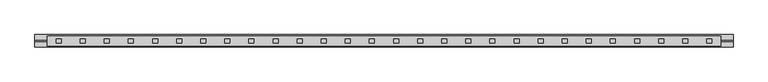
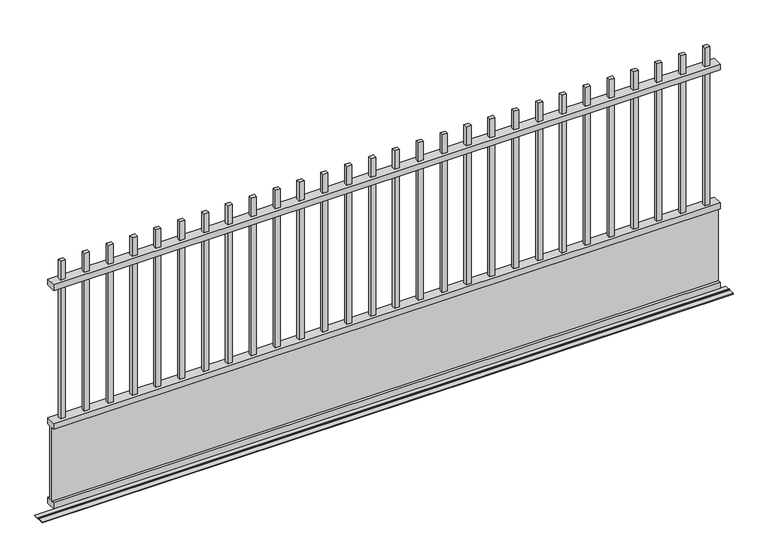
"""IFC4 building model written with IfcOpenShell, lengths in millimetres: geographic element geometry, Portail coulissant - 01 : Portail coulissant - 01."""

from ifc_helpers import new_model, si_unit, frame, origin, place, context, project, spatial, polyline, outline, extrude, faceted_brep, source, transform, mapped, element, save


def geographic_element_1e7744e3(model_context):
    return source(origin(), model_context, "Body", "SolidModel", [
        faceted_brep([(-1429.1068511, -7.5, 975.0), (-1429.1068511, -7.5, 405.0), (-1429.1068511, 7.5, 405.0), (-1429.1068511, 7.5, 975.0), (-1429.1068511, 7.5, 1080.0), (-1429.1068511, -7.5, 1080.0), (-1429.1068511, -7.5, 1000.0), (-1429.1068511, 7.5, 1000.0), (-1449.1068511, -7.5, 975.0), (-1449.1068511, -7.5, 405.0), (-1449.1068511, -7.5, 1080.0), (-1449.1068511, -7.5, 1000.0), (1215.8931489, -20.0, 405.0), (1215.8931489, 20.0, 405.0), (-1484.1068511, 20.0, 405.0), (-1484.1068511, -20.0, 405.0), (-1449.1068511, 7.5, 405.0), (-1235.7735177, 7.5, 405.0), (-1235.7735177, -7.5, 405.0), (-1255.7735177, -7.5, 405.0), (-1255.7735177, 7.5, 405.0), (-1042.4401844, 7.5, 405.0), (-1042.4401844, -7.5, 405.0), (-1062.4401844, -7.5, 405.0), (-1062.4401844, 7.5, 405.0), (-849.1068511, 7.5, 405.0), (-849.1068511, -7.5, 405.0), (-869.1068511, -7.5, 405.0), (-869.1068511, 7.5, 405.0), (-655.7735177, 7.5, 405.0), (-655.7735177, -7.5, 405.0), (-675.7735177, -7.5, 405.0), (-675.7735177, 7.5, 405.0), (-462.4401844, 7.5, 405.0), (-462.4401844, -7.5, 405.0), (-482.4401844, -7.5, 405.0), (-482.4401844, 7.5, 405.0), (-269.1068511, 7.5, 405.0), (-269.1068511, -7.5, 405.0), (-289.1068511, -7.5, 405.0), (-289.1068511, 7.5, 405.0), (-75.7735177, 7.5, 405.0), (-75.7735177, -7.5, 405.0), (-95.7735177, -7.5, 405.0), (-95.7735177, 7.5, 405.0), (117.5598156, 7.5, 405.0), (117.5598156, -7.5, 405.0), (97.5598156, -7.5, 405.0), (97.5598156, 7.5, 405.0), (310.8931489, 7.5, 405.0), (310.8931489, -7.5, 405.0), (290.8931489, -7.5, 405.0), (290.8931489, 7.5, 405.0), (407.5598156, 7.5, 405.0), (407.5598156, -7.5, 405.0), (387.5598156, -7.5, 405.0), (387.5598156, 7.5, 405.0), (504.2264823, 7.5, 405.0), (504.2264823, -7.5, 405.0), (484.2264823, -7.5, 405.0), (484.2264823, 7.5, 405.0), (600.8931489, 7.5, 405.0), (600.8931489, -7.5, 405.0), (580.8931489, -7.5, 405.0), (580.8931489, 7.5, 405.0), (697.5598156, 7.5, 405.0), (697.5598156, -7.5, 405.0), (677.5598156, -7.5, 405.0), (677.5598156, 7.5, 405.0), (794.2264823, 7.5, 405.0), (794.2264823, -7.5, 405.0), (774.2264823, -7.5, 405.0), (774.2264823, 7.5, 405.0), (890.8931489, 7.5, 405.0), (890.8931489, -7.5, 405.0), (870.8931489, -7.5, 405.0), (870.8931489, 7.5, 405.0), (987.5598156, 7.5, 405.0), (987.5598156, -7.5, 405.0), (967.5598156, -7.5, 405.0), (967.5598156, 7.5, 405.0), (1084.2264823, 7.5, 405.0), (1084.2264823, -7.5, 405.0), (1064.2264823, -7.5, 405.0), (1064.2264823, 7.5, 405.0), (1180.8931489, 7.5, 405.0), (1180.8931489, -7.5, 405.0), (1160.8931489, -7.5, 405.0), (1160.8931489, 7.5, 405.0), (-1332.4401844, 7.5, 405.0), (-1332.4401844, -7.5, 405.0), (-1352.4401844, -7.5, 405.0), (-1352.4401844, 7.5, 405.0), (-1139.1068511, 7.5, 405.0), (-1139.1068511, -7.5, 405.0), (-1159.1068511, -7.5, 405.0), (-1159.1068511, 7.5, 405.0), (-945.7735177, 7.5, 405.0), (-945.7735177, -7.5, 405.0), (-965.7735177, -7.5, 405.0), (-965.7735177, 7.5, 405.0), (-752.4401844, 7.5, 405.0), (-752.4401844, -7.5, 405.0), (-772.4401844, -7.5, 405.0), (-772.4401844, 7.5, 405.0), (-365.7735177, 7.5, 405.0), (-365.7735177, -7.5, 405.0), (-385.7735177, -7.5, 405.0), (-385.7735177, 7.5, 405.0), (-172.4401844, 7.5, 405.0), (-172.4401844, -7.5, 405.0), (-192.4401844, -7.5, 405.0), (-192.4401844, 7.5, 405.0), (214.2264823, 7.5, 405.0), (214.2264823, -7.5, 405.0), (194.2264823, -7.5, 405.0), (194.2264823, 7.5, 405.0), (20.8931489, 7.5, 405.0), (20.8931489, -7.5, 405.0), (0.8931489, -7.5, 405.0), (0.8931489, 7.5, 405.0), (-559.1068511, 7.5, 405.0), (-559.1068511, -7.5, 405.0), (-579.1068511, -7.5, 405.0), (-579.1068511, 7.5, 405.0), (-1449.1068511, 7.5, 975.0), (-1449.1068511, 7.5, 1080.0), (-1449.1068511, 7.5, 1000.0), (1215.8931489, 20.0, 975.0), (1215.8931489, -20.0, 975.0), (-1484.1068511, -20.0, 975.0), (-1484.1068511, 20.0, 975.0), (-1235.7735177, -7.5, 975.0), (-1235.7735177, 7.5, 975.0), (-1255.7735177, 7.5, 975.0), (-1255.7735177, -7.5, 975.0), (-1042.4401844, -7.5, 975.0), (-1042.4401844, 7.5, 975.0), (-1062.4401844, 7.5, 975.0), (-1062.4401844, -7.5, 975.0), (-849.1068511, -7.5, 975.0), (-849.1068511, 7.5, 975.0), (-869.1068511, 7.5, 975.0), (-869.1068511, -7.5, 975.0), (-655.7735177, -7.5, 975.0), (-655.7735177, 7.5, 975.0), (-675.7735177, 7.5, 975.0), (-675.7735177, -7.5, 975.0), (-462.4401844, -7.5, 975.0), (-462.4401844, 7.5, 975.0), (-482.4401844, 7.5, 975.0), (-482.4401844, -7.5, 975.0), (-269.1068511, -7.5, 975.0), (-269.1068511, 7.5, 975.0), (-289.1068511, 7.5, 975.0), (-289.1068511, -7.5, 975.0), (-75.7735177, -7.5, 975.0), (-75.7735177, 7.5, 975.0), (-95.7735177, 7.5, 975.0), (-95.7735177, -7.5, 975.0), (117.5598156, -7.5, 975.0), (117.5598156, 7.5, 975.0), (97.5598156, 7.5, 975.0), (97.5598156, -7.5, 975.0), (310.8931489, -7.5, 975.0), (310.8931489, 7.5, 975.0), (290.8931489, 7.5, 975.0), (290.8931489, -7.5, 975.0), (407.5598156, -7.5, 975.0), (407.5598156, 7.5, 975.0), (387.5598156, 7.5, 975.0), (387.5598156, -7.5, 975.0), (504.2264823, -7.5, 975.0), (504.2264823, 7.5, 975.0), (484.2264823, 7.5, 975.0), (484.2264823, -7.5, 975.0), (600.8931489, -7.5, 975.0), (600.8931489, 7.5, 975.0), (580.8931489, 7.5, 975.0), (580.8931489, -7.5, 975.0), (697.5598156, -7.5, 975.0), (697.5598156, 7.5, 975.0), (677.5598156, 7.5, 975.0), (677.5598156, -7.5, 975.0), (794.2264823, -7.5, 975.0), (794.2264823, 7.5, 975.0), (774.2264823, 7.5, 975.0), (774.2264823, -7.5, 975.0), (890.8931489, -7.5, 975.0), (890.8931489, 7.5, 975.0), (870.8931489, 7.5, 975.0), (870.8931489, -7.5, 975.0), (987.5598156, -7.5, 975.0), (987.5598156, 7.5, 975.0), (967.5598156, 7.5, 975.0), (967.5598156, -7.5, 975.0), (1084.2264823, -7.5, 975.0), (1084.2264823, 7.5, 975.0), (1064.2264823, 7.5, 975.0), (1064.2264823, -7.5, 975.0), (1180.8931489, -7.5, 975.0), (1180.8931489, 7.5, 975.0), (1160.8931489, 7.5, 975.0), (1160.8931489, -7.5, 975.0), (-1332.4401844, -7.5, 975.0), (-1332.4401844, 7.5, 975.0), (-1352.4401844, 7.5, 975.0), (-1352.4401844, -7.5, 975.0), (-1139.1068511, -7.5, 975.0), (-1139.1068511, 7.5, 975.0), (-1159.1068511, 7.5, 975.0), (-1159.1068511, -7.5, 975.0), (-945.7735177, -7.5, 975.0), (-945.7735177, 7.5, 975.0), (-965.7735177, 7.5, 975.0), (-965.7735177, -7.5, 975.0), (-752.4401844, -7.5, 975.0), (-752.4401844, 7.5, 975.0), (-772.4401844, 7.5, 975.0), (-772.4401844, -7.5, 975.0), (-365.7735177, -7.5, 975.0), (-365.7735177, 7.5, 975.0), (-385.7735177, 7.5, 975.0), (-385.7735177, -7.5, 975.0), (-172.4401844, -7.5, 975.0), (-172.4401844, 7.5, 975.0), (-192.4401844, 7.5, 975.0), (-192.4401844, -7.5, 975.0), (214.2264823, -7.5, 975.0), (214.2264823, 7.5, 975.0), (194.2264823, 7.5, 975.0), (194.2264823, -7.5, 975.0), (20.8931489, -7.5, 975.0), (20.8931489, 7.5, 975.0), (0.8931489, 7.5, 975.0), (0.8931489, -7.5, 975.0), (-559.1068511, -7.5, 975.0), (-559.1068511, 7.5, 975.0), (-579.1068511, 7.5, 975.0), (-579.1068511, -7.5, 975.0), (-1235.7735177, 7.5, 1080.0), (-1235.7735177, -7.5, 1080.0), (-1235.7735177, -7.5, 1000.0), (-1235.7735177, 7.5, 1000.0), (-1255.7735177, -7.5, 1080.0), (-1255.7735177, -7.5, 1000.0), (-1255.7735177, 7.5, 1080.0), (-1255.7735177, 7.5, 1000.0), (-1042.4401844, 7.5, 1080.0), (-1042.4401844, -7.5, 1080.0), (-1042.4401844, -7.5, 1000.0), (-1042.4401844, 7.5, 1000.0), (-1062.4401844, -7.5, 1080.0), (-1062.4401844, -7.5, 1000.0), (-1062.4401844, 7.5, 1080.0), (-1062.4401844, 7.5, 1000.0), (-849.1068511, 7.5, 1080.0), (-849.1068511, -7.5, 1080.0), (-849.1068511, -7.5, 1000.0), (-849.1068511, 7.5, 1000.0), (-869.1068511, -7.5, 1080.0), (-869.1068511, -7.5, 1000.0), (-869.1068511, 7.5, 1080.0), (-869.1068511, 7.5, 1000.0), (-655.7735177, 7.5, 1080.0), (-655.7735177, -7.5, 1080.0), (-655.7735177, -7.5, 1000.0), (-655.7735177, 7.5, 1000.0), (-675.7735177, -7.5, 1080.0), (-675.7735177, -7.5, 1000.0), (-675.7735177, 7.5, 1080.0), (-675.7735177, 7.5, 1000.0), (-462.4401844, 7.5, 1080.0), (-462.4401844, -7.5, 1080.0), (-462.4401844, -7.5, 1000.0), (-462.4401844, 7.5, 1000.0), (-482.4401844, -7.5, 1080.0), (-482.4401844, -7.5, 1000.0), (-482.4401844, 7.5, 1080.0), (-482.4401844, 7.5, 1000.0), (-269.1068511, 7.5, 1080.0), (-269.1068511, -7.5, 1080.0), (-269.1068511, -7.5, 1000.0), (-269.1068511, 7.5, 1000.0), (-289.1068511, -7.5, 1080.0), (-289.1068511, -7.5, 1000.0), (-289.1068511, 7.5, 1080.0), (-289.1068511, 7.5, 1000.0), (-75.7735177, 7.5, 1080.0), (-75.7735177, -7.5, 1080.0), (-75.7735177, -7.5, 1000.0), (-75.7735177, 7.5, 1000.0), (-95.7735177, -7.5, 1080.0), (-95.7735177, -7.5, 1000.0), (-95.7735177, 7.5, 1080.0), (-95.7735177, 7.5, 1000.0), (117.5598156, 7.5, 1080.0), (117.5598156, -7.5, 1080.0), (117.5598156, -7.5, 1000.0), (117.5598156, 7.5, 1000.0), (97.5598156, -7.5, 1080.0), (97.5598156, -7.5, 1000.0), (97.5598156, 7.5, 1080.0), (97.5598156, 7.5, 1000.0), (310.8931489, 7.5, 1080.0), (310.8931489, -7.5, 1080.0), (310.8931489, -7.5, 1000.0), (310.8931489, 7.5, 1000.0), (290.8931489, -7.5, 1080.0), (290.8931489, -7.5, 1000.0), (290.8931489, 7.5, 1080.0), (290.8931489, 7.5, 1000.0), (407.5598156, 7.5, 1080.0), (407.5598156, -7.5, 1080.0), (407.5598156, -7.5, 1000.0), (407.5598156, 7.5, 1000.0), (387.5598156, -7.5, 1080.0), (387.5598156, -7.5, 1000.0), (387.5598156, 7.5, 1080.0), (387.5598156, 7.5, 1000.0), (504.2264823, 7.5, 1080.0), (504.2264823, -7.5, 1080.0), (504.2264823, -7.5, 1000.0), (504.2264823, 7.5, 1000.0), (484.2264823, -7.5, 1080.0), (484.2264823, -7.5, 1000.0), (484.2264823, 7.5, 1080.0), (484.2264823, 7.5, 1000.0), (600.8931489, 7.5, 1080.0), (600.8931489, -7.5, 1080.0), (600.8931489, -7.5, 1000.0), (600.8931489, 7.5, 1000.0), (580.8931489, -7.5, 1080.0), (580.8931489, -7.5, 1000.0), (580.8931489, 7.5, 1080.0), (580.8931489, 7.5, 1000.0), (697.5598156, 7.5, 1080.0), (697.5598156, -7.5, 1080.0), (697.5598156, -7.5, 1000.0), (697.5598156, 7.5, 1000.0), (677.5598156, -7.5, 1080.0), (677.5598156, -7.5, 1000.0), (677.5598156, 7.5, 1080.0), (677.5598156, 7.5, 1000.0), (794.2264823, 7.5, 1080.0), (794.2264823, -7.5, 1080.0), (794.2264823, -7.5, 1000.0), (794.2264823, 7.5, 1000.0), (774.2264823, -7.5, 1080.0), (774.2264823, -7.5, 1000.0), (774.2264823, 7.5, 1080.0), (774.2264823, 7.5, 1000.0), (890.8931489, 7.5, 1080.0), (890.8931489, -7.5, 1080.0), (890.8931489, -7.5, 1000.0), (890.8931489, 7.5, 1000.0), (870.8931489, -7.5, 1080.0), (870.8931489, -7.5, 1000.0), (870.8931489, 7.5, 1080.0), (870.8931489, 7.5, 1000.0), (987.5598156, 7.5, 1080.0), (987.5598156, -7.5, 1080.0), (987.5598156, -7.5, 1000.0), (987.5598156, 7.5, 1000.0), (967.5598156, -7.5, 1080.0), (967.5598156, -7.5, 1000.0), (967.5598156, 7.5, 1080.0), (967.5598156, 7.5, 1000.0), (1084.2264823, 7.5, 1080.0), (1084.2264823, -7.5, 1080.0), (1084.2264823, -7.5, 1000.0), (1084.2264823, 7.5, 1000.0), (1064.2264823, -7.5, 1080.0), (1064.2264823, -7.5, 1000.0), (1064.2264823, 7.5, 1080.0), (1064.2264823, 7.5, 1000.0), (1180.8931489, 7.5, 1080.0), (1180.8931489, -7.5, 1080.0), (1180.8931489, -7.5, 1000.0), (1180.8931489, 7.5, 1000.0), (1160.8931489, -7.5, 1080.0), (1160.8931489, -7.5, 1000.0), (1160.8931489, 7.5, 1080.0), (1160.8931489, 7.5, 1000.0), (-1332.4401844, 7.5, 1080.0), (-1332.4401844, -7.5, 1080.0), (-1332.4401844, -7.5, 1000.0), (-1332.4401844, 7.5, 1000.0), (-1352.4401844, -7.5, 1080.0), (-1352.4401844, -7.5, 1000.0), (-1352.4401844, 7.5, 1080.0), (-1352.4401844, 7.5, 1000.0), (-1139.1068511, 7.5, 1080.0), (-1139.1068511, -7.5, 1080.0), (-1139.1068511, -7.5, 1000.0), (-1139.1068511, 7.5, 1000.0), (-1159.1068511, -7.5, 1080.0), (-1159.1068511, -7.5, 1000.0), (-1159.1068511, 7.5, 1080.0), (-1159.1068511, 7.5, 1000.0), (-945.7735177, 7.5, 1080.0), (-945.7735177, -7.5, 1080.0), (-945.7735177, -7.5, 1000.0), (-945.7735177, 7.5, 1000.0), (-965.7735177, -7.5, 1080.0), (-965.7735177, -7.5, 1000.0), (-965.7735177, 7.5, 1080.0), (-965.7735177, 7.5, 1000.0), (-752.4401844, 7.5, 1080.0), (-752.4401844, -7.5, 1080.0), (-752.4401844, -7.5, 1000.0), (-752.4401844, 7.5, 1000.0), (-772.4401844, -7.5, 1080.0), (-772.4401844, -7.5, 1000.0), (-772.4401844, 7.5, 1080.0), (-772.4401844, 7.5, 1000.0), (-365.7735177, 7.5, 1080.0), (-365.7735177, -7.5, 1080.0), (-365.7735177, -7.5, 1000.0), (-365.7735177, 7.5, 1000.0), (-385.7735177, -7.5, 1080.0), (-385.7735177, -7.5, 1000.0), (-385.7735177, 7.5, 1080.0), (-385.7735177, 7.5, 1000.0), (-172.4401844, 7.5, 1080.0), (-172.4401844, -7.5, 1080.0), (-172.4401844, -7.5, 1000.0), (-172.4401844, 7.5, 1000.0), (-192.4401844, -7.5, 1080.0), (-192.4401844, -7.5, 1000.0), (-192.4401844, 7.5, 1080.0), (-192.4401844, 7.5, 1000.0), (214.2264823, 7.5, 1080.0), (214.2264823, -7.5, 1080.0), (214.2264823, -7.5, 1000.0), (214.2264823, 7.5, 1000.0), (194.2264823, -7.5, 1080.0), (194.2264823, -7.5, 1000.0), (194.2264823, 7.5, 1080.0), (194.2264823, 7.5, 1000.0), (20.8931489, 7.5, 1080.0), (20.8931489, -7.5, 1080.0), (20.8931489, -7.5, 1000.0), (20.8931489, 7.5, 1000.0), (0.8931489, -7.5, 1080.0), (0.8931489, -7.5, 1000.0), (0.8931489, 7.5, 1080.0), (0.8931489, 7.5, 1000.0), (-559.1068511, 7.5, 1080.0), (-559.1068511, -7.5, 1080.0), (-559.1068511, -7.5, 1000.0), (-559.1068511, 7.5, 1000.0), (-579.1068511, -7.5, 1080.0), (-579.1068511, -7.5, 1000.0), (-579.1068511, 7.5, 1080.0), (-579.1068511, 7.5, 1000.0), (1215.8931489, -20.0, 380.0), (1215.8931489, -7.5, 380.0), (1215.8931489, -7.5, 65.0), (1215.8931489, -20.0, 65.0), (1215.8931489, -20.0, 40.0), (1215.8931489, 20.0, 40.0), (1215.8931489, 20.0, 65.0), (1215.8931489, 7.5, 65.0), (1215.8931489, 7.5, 380.0), (1215.8931489, 20.0, 380.0), (1215.8931489, 20.0, 1000.0), (1215.8931489, -20.0, 1000.0), (-1484.1068511, -20.0, 380.0), (-1484.1068511, -7.5, 380.0), (-1484.1068511, -7.5, 65.0), (-1484.1068511, -20.0, 65.0), (-1484.1068511, -20.0, 40.0), (-1484.1068511, 20.0, 40.0), (-1484.1068511, 20.0, 65.0), (-1484.1068511, 7.5, 65.0), (-1484.1068511, 7.5, 380.0), (-1484.1068511, 20.0, 380.0), (-1484.1068511, 20.0, 1000.0), (-1484.1068511, -20.0, 1000.0)], [[[0, 1, 2, 3]], [[4, 5, 6, 7]], [[1, 0, 8, 9]], [[5, 10, 11, 6]], [[12, 13, 14, 15], [2, 1, 9, 16], [17, 18, 19, 20], [21, 22, 23, 24], [25, 26, 27, 28], [29, 30, 31, 32], [33, 34, 35, 36], [37, 38, 39, 40], [41, 42, 43, 44], [45, 46, 47, 48], [49, 50, 51, 52], [53, 54, 55, 56], [57, 58, 59, 60], [61, 62, 63, 64], [65, 66, 67, 68], [69, 70, 71, 72], [73, 74, 75, 76], [77, 78, 79, 80], [81, 82, 83, 84], [85, 86, 87, 88], [89, 90, 91, 92], [93, 94, 95, 96], [97, 98, 99, 100], [101, 102, 103, 104], [105, 106, 107, 108], [109, 110, 111, 112], [113, 114, 115, 116], [117, 118, 119, 120], [121, 122, 123, 124]], [[3, 2, 16, 125]], [[126, 4, 7, 127]], [[128, 129, 130, 131], [0, 3, 125, 8], [132, 133, 134, 135], [136, 137, 138, 139], [140, 141, 142, 143], [144, 145, 146, 147], [148, 149, 150, 151], [152, 153, 154, 155], [156, 157, 158, 159], [160, 161, 162, 163], [164, 165, 166, 167], [168, 169, 170, 171], [172, 173, 174, 175], [176, 177, 178, 179], [180, 181, 182, 183], [184, 185, 186, 187], [188, 189, 190, 191], [192, 193, 194, 195], [196, 197, 198, 199], [200, 201, 202, 203], [204, 205, 206, 207], [208, 209, 210, 211], [212, 213, 214, 215], [216, 217, 218, 219], [220, 221, 222, 223], [224, 225, 226, 227], [228, 229, 230, 231], [232, 233, 234, 235], [236, 237, 238, 239]], [[125, 16, 9, 8]], [[10, 126, 127, 11]], [[132, 18, 17, 133]], [[240, 241, 242, 243]], [[18, 132, 135, 19]], [[241, 244, 245, 242]], [[133, 17, 20, 134]], [[246, 240, 243, 247]], [[134, 20, 19, 135]], [[244, 246, 247, 245]], [[136, 22, 21, 137]], [[248, 249, 250, 251]], [[22, 136, 139, 23]], [[249, 252, 253, 250]], [[137, 21, 24, 138]], [[254, 248, 251, 255]], [[138, 24, 23, 139]], [[252, 254, 255, 253]], [[140, 26, 25, 141]], [[256, 257, 258, 259]], [[26, 140, 143, 27]], [[257, 260, 261, 258]], [[141, 25, 28, 142]], [[262, 256, 259, 263]], [[142, 28, 27, 143]], [[260, 262, 263, 261]], [[144, 30, 29, 145]], [[264, 265, 266, 267]], [[30, 144, 147, 31]], [[265, 268, 269, 266]], [[145, 29, 32, 146]], [[270, 264, 267, 271]], [[146, 32, 31, 147]], [[268, 270, 271, 269]], [[148, 34, 33, 149]], [[272, 273, 274, 275]], [[34, 148, 151, 35]], [[273, 276, 277, 274]], [[149, 33, 36, 150]], [[278, 272, 275, 279]], [[150, 36, 35, 151]], [[276, 278, 279, 277]], [[152, 38, 37, 153]], [[280, 281, 282, 283]], [[38, 152, 155, 39]], [[281, 284, 285, 282]], [[153, 37, 40, 154]], [[286, 280, 283, 287]], [[154, 40, 39, 155]], [[284, 286, 287, 285]], [[156, 42, 41, 157]], [[288, 289, 290, 291]], [[42, 156, 159, 43]], [[289, 292, 293, 290]], [[157, 41, 44, 158]], [[294, 288, 291, 295]], [[158, 44, 43, 159]], [[292, 294, 295, 293]], [[160, 46, 45, 161]], [[296, 297, 298, 299]], [[46, 160, 163, 47]], [[297, 300, 301, 298]], [[161, 45, 48, 162]], [[302, 296, 299, 303]], [[162, 48, 47, 163]], [[300, 302, 303, 301]], [[164, 50, 49, 165]], [[304, 305, 306, 307]], [[50, 164, 167, 51]], [[305, 308, 309, 306]], [[165, 49, 52, 166]], [[310, 304, 307, 311]], [[166, 52, 51, 167]], [[308, 310, 311, 309]], [[168, 54, 53, 169]], [[312, 313, 314, 315]], [[54, 168, 171, 55]], [[313, 316, 317, 314]], [[169, 53, 56, 170]], [[318, 312, 315, 319]], [[170, 56, 55, 171]], [[316, 318, 319, 317]], [[172, 58, 57, 173]], [[320, 321, 322, 323]], [[58, 172, 175, 59]], [[321, 324, 325, 322]], [[173, 57, 60, 174]], [[326, 320, 323, 327]], [[174, 60, 59, 175]], [[324, 326, 327, 325]], [[176, 62, 61, 177]], [[328, 329, 330, 331]], [[62, 176, 179, 63]], [[329, 332, 333, 330]], [[177, 61, 64, 178]], [[334, 328, 331, 335]], [[178, 64, 63, 179]], [[332, 334, 335, 333]], [[180, 66, 65, 181]], [[336, 337, 338, 339]], [[66, 180, 183, 67]], [[337, 340, 341, 338]], [[181, 65, 68, 182]], [[342, 336, 339, 343]], [[182, 68, 67, 183]], [[340, 342, 343, 341]], [[184, 70, 69, 185]], [[344, 345, 346, 347]], [[70, 184, 187, 71]], [[345, 348, 349, 346]], [[185, 69, 72, 186]], [[350, 344, 347, 351]], [[186, 72, 71, 187]], [[348, 350, 351, 349]], [[188, 74, 73, 189]], [[352, 353, 354, 355]], [[74, 188, 191, 75]], [[353, 356, 357, 354]], [[189, 73, 76, 190]], [[358, 352, 355, 359]], [[190, 76, 75, 191]], [[356, 358, 359, 357]], [[192, 78, 77, 193]], [[360, 361, 362, 363]], [[78, 192, 195, 79]], [[361, 364, 365, 362]], [[193, 77, 80, 194]], [[366, 360, 363, 367]], [[194, 80, 79, 195]], [[364, 366, 367, 365]], [[196, 82, 81, 197]], [[368, 369, 370, 371]], [[82, 196, 199, 83]], [[369, 372, 373, 370]], [[197, 81, 84, 198]], [[374, 368, 371, 375]], [[198, 84, 83, 199]], [[372, 374, 375, 373]], [[200, 86, 85, 201]], [[376, 377, 378, 379]], [[86, 200, 203, 87]], [[377, 380, 381, 378]], [[201, 85, 88, 202]], [[382, 376, 379, 383]], [[202, 88, 87, 203]], [[380, 382, 383, 381]], [[204, 90, 89, 205]], [[384, 385, 386, 387]], [[90, 204, 207, 91]], [[385, 388, 389, 386]], [[205, 89, 92, 206]], [[390, 384, 387, 391]], [[206, 92, 91, 207]], [[388, 390, 391, 389]], [[208, 94, 93, 209]], [[392, 393, 394, 395]], [[94, 208, 211, 95]], [[393, 396, 397, 394]], [[209, 93, 96, 210]], [[398, 392, 395, 399]], [[210, 96, 95, 211]], [[396, 398, 399, 397]], [[212, 98, 97, 213]], [[400, 401, 402, 403]], [[98, 212, 215, 99]], [[401, 404, 405, 402]], [[213, 97, 100, 214]], [[406, 400, 403, 407]], [[214, 100, 99, 215]], [[404, 406, 407, 405]], [[216, 102, 101, 217]], [[408, 409, 410, 411]], [[102, 216, 219, 103]], [[409, 412, 413, 410]], [[217, 101, 104, 218]], [[414, 408, 411, 415]], [[218, 104, 103, 219]], [[412, 414, 415, 413]], [[220, 106, 105, 221]], [[416, 417, 418, 419]], [[106, 220, 223, 107]], [[417, 420, 421, 418]], [[221, 105, 108, 222]], [[422, 416, 419, 423]], [[222, 108, 107, 223]], [[420, 422, 423, 421]], [[224, 110, 109, 225]], [[424, 425, 426, 427]], [[110, 224, 227, 111]], [[425, 428, 429, 426]], [[225, 109, 112, 226]], [[430, 424, 427, 431]], [[226, 112, 111, 227]], [[428, 430, 431, 429]], [[228, 114, 113, 229]], [[432, 433, 434, 435]], [[114, 228, 231, 115]], [[433, 436, 437, 434]], [[229, 113, 116, 230]], [[438, 432, 435, 439]], [[230, 116, 115, 231]], [[436, 438, 439, 437]], [[232, 118, 117, 233]], [[440, 441, 442, 443]], [[118, 232, 235, 119]], [[441, 444, 445, 442]], [[233, 117, 120, 234]], [[446, 440, 443, 447]], [[234, 120, 119, 235]], [[444, 446, 447, 445]], [[236, 122, 121, 237]], [[448, 449, 450, 451]], [[122, 236, 239, 123]], [[449, 452, 453, 450]], [[237, 121, 124, 238]], [[454, 448, 451, 455]], [[238, 124, 123, 239]], [[452, 454, 455, 453]], [[456, 457, 458, 459, 460, 461, 462, 463, 464, 465, 13, 12]], [[128, 466, 467, 129]], [[457, 456, 468, 469]], [[458, 457, 469, 470]], [[459, 458, 470, 471]], [[460, 459, 471, 472]], [[461, 460, 472, 473]], [[462, 461, 473, 474]], [[463, 462, 474, 475]], [[464, 463, 475, 476]], [[465, 464, 476, 477]], [[13, 465, 477, 14]], [[456, 12, 15, 468]], [[466, 128, 131, 478]], [[129, 467, 479, 130]], [[131, 130, 479, 478]], [[468, 15, 14, 477, 476, 475, 474, 473, 472, 471, 470, 469]], [[5, 4, 126, 10]], [[241, 240, 246, 244]], [[249, 248, 254, 252]], [[257, 256, 262, 260]], [[265, 264, 270, 268]], [[273, 272, 278, 276]], [[281, 280, 286, 284]], [[289, 288, 294, 292]], [[297, 296, 302, 300]], [[305, 304, 310, 308]], [[313, 312, 318, 316]], [[321, 320, 326, 324]], [[329, 328, 334, 332]], [[337, 336, 342, 340]], [[345, 344, 350, 348]], [[353, 352, 358, 356]], [[361, 360, 366, 364]], [[369, 368, 374, 372]], [[377, 376, 382, 380]], [[385, 384, 390, 388]], [[393, 392, 398, 396]], [[401, 400, 406, 404]], [[409, 408, 414, 412]], [[417, 416, 422, 420]], [[425, 424, 430, 428]], [[433, 432, 438, 436]], [[441, 440, 446, 444]], [[449, 448, 454, 452]], [[467, 466, 478, 479], [7, 6, 11, 127], [243, 242, 245, 247], [251, 250, 253, 255], [259, 258, 261, 263], [267, 266, 269, 271], [275, 274, 277, 279], [283, 282, 285, 287], [291, 290, 293, 295], [299, 298, 301, 303], [307, 306, 309, 311], [315, 314, 317, 319], [323, 322, 325, 327], [331, 330, 333, 335], [339, 338, 341, 343], [347, 346, 349, 351], [355, 354, 357, 359], [363, 362, 365, 367], [371, 370, 373, 375], [379, 378, 381, 383], [387, 386, 389, 391], [395, 394, 397, 399], [403, 402, 405, 407], [411, 410, 413, 415], [419, 418, 421, 423], [427, 426, 429, 431], [435, 434, 437, 439], [443, 442, 445, 447], [451, 450, 453, 455]]]),
        extrude(outline(polyline([(-25.0, 0.0), (-25.0, 3.0), (-1.4239432, 3.0), (-1.4239432, 6.0), (1.4239432, 6.0), (1.4239432, 3.0), (25.0, 3.0), (25.0, 0.0), (-25.0, 0.0)])), frame((-1534.1068511, 0.0, 0.0), z_axis=(1.0, 0.0, 0.0), x_axis=(0.0, 1.0, 0.0)), (0.0, 0.0, 1.0), 2800.0),
    ])


if __name__ == "__main__":
    model = new_model("IFC4")
    model_context = context("Model", 3, world=origin())
    ifc_project = project(units=[si_unit("LENGTHUNIT", "METRE", prefix="MILLI")], contexts=[model_context])
    site = spatial("IfcSite", under=ifc_project)
    building = spatial("IfcBuilding", under=site)
    placement = place(None, origin())
    geographic_element_shape = geographic_element_1e7744e3(model_context)
    element("IfcGeographicElement", 1, ObjectType="Portail coulissant - 01 : Portail coulissant - 01", at=placement, inside=building, context=model_context, shape_type="MappedRepresentation", body=[
        mapped(geographic_element_shape, transform((0.0, 0.0, 0.0), x_axis=(1.0, 0.0, 0.0), y_axis=(0.0, 1.0, 0.0), z_axis=(0.0, 0.0, 1.0))),
    ])
    save(model, "model.ifc")
